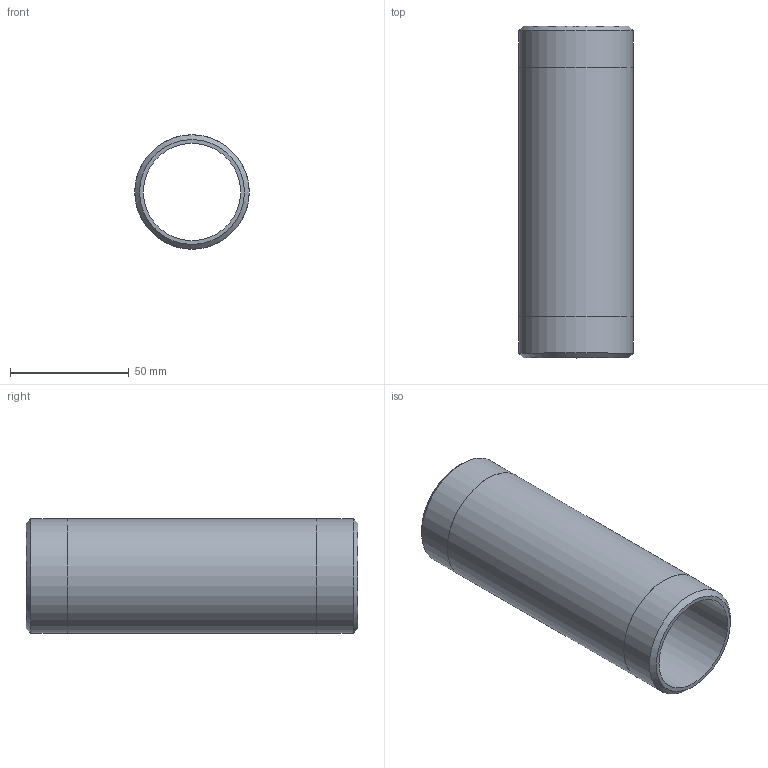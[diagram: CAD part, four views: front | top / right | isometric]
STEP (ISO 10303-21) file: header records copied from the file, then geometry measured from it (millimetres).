
FILE_DESCRIPTION(/* description */ (''),/* implementation_level */ '2;1');
FILE_NAME(/* name */ 'C:/Users/drich/Desktop/SSPN1-1_2-5-1_2 v1.step',/* time_stamp */ '2020-01-03T16:20:00-06:00',/* author */ (''),/* organization */ (''),/* preprocessor_version */ 'ST-DEVELOPER v18',/* originating_system */ 'Autodesk Translation Framework v8.12.0.6',/* authorisation */ '');
FILE_SCHEMA (('AUTOMOTIVE_DESIGN { 1 0 10303 214 3 1 1 }'));
Length unit declared in the file: inch
Products named in the file (1): SSPN1-1_2-5-1_2
Bounding box: 48.26 x 139.7 x 48.26 mm (x, y, z)
Volume: 71313.2 mm3; surface area: 39782.7 mm2
Topology: 1 solids, 1 shells, 10 faces, 24 edges, 18 vertices
Faces by surface type: cylinder 4, plane 4, cone 2
Full cylindrical faces by diameter (mm): 40.894 x1, 48.209 x2, 48.26 x1
Entity records: 353 total; most frequent: DIRECTION 64, CARTESIAN_POINT 53, ORIENTED_EDGE 48, AXIS2_PLACEMENT_3D 29, EDGE_CURVE 24, CIRCLE 18, VERTEX_POINT 18, EDGE_LOOP 14
